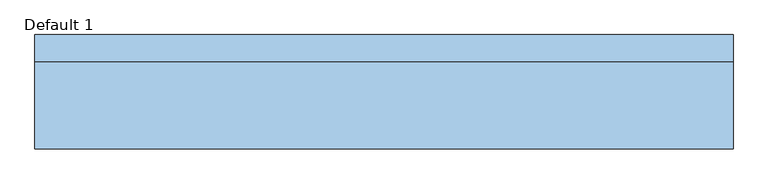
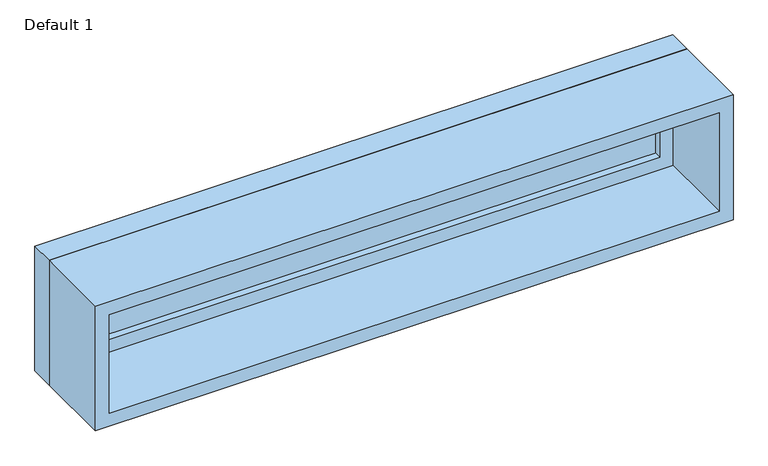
"""IFC4 building model written with IfcOpenShell, lengths in millimetres: window geometry, Planitar-Fixed : Default 1."""

from ifc_helpers import new_model, si_unit, frame, origin, place, context, project, spatial, polyline, outline, extrude, source, transform, mapped, element, save


def default_1_ff7a0cfc(model_context):
    return source(origin(), model_context, "Body", "SweptSolid", [
        extrude(outline(polyline([(1200.2, -717.6), (933.4, -717.6), (933.4, 717.6), (1200.2, 717.6), (1200.2, -717.6)]), holes=[polyline([(1156.2, -673.6), (1156.2, 673.6), (977.4, 673.6), (977.4, -673.6), (1156.2, -673.6)])]), frame((0.0, 76.95, 0.0), z_axis=(0.0, 1.0, 0.0), x_axis=(0.0, 0.0, 1.0)), (0.0, 0.0, 1.0), 44.0),
        extrude(outline(polyline([(1219.2, -736.6), (914.4, -736.6), (914.4, 736.6), (1219.2, 736.6), (1219.2, -736.6)]), holes=[polyline([(1200.2, -717.6), (1200.2, 717.6), (933.4, 717.6), (933.4, -717.6), (1200.2, -717.6)])]), frame((0.0, 76.95, 0.0), z_axis=(0.0, 1.0, 0.0), x_axis=(0.0, 0.0, 1.0)), (0.0, 0.0, 1.0), 56.7),
        extrude(outline(polyline([(1219.2, -736.6), (914.4, -736.6), (914.4, 736.6), (1219.2, 736.6), (1219.2, -736.6)]), holes=[polyline([(1187.2, -704.6), (1187.2, 704.6), (946.4, 704.6), (946.4, -704.6), (1187.2, -704.6)])]), frame((0.0, -107.65, 0.0), z_axis=(0.0, 1.0, 0.0), x_axis=(0.0, 0.0, 1.0)), (0.0, 0.0, 1.0), 184.6),
        extrude(outline(polyline([(-673.6, 104.95), (673.6, 104.95), (673.6, 92.95), (-673.6, 92.95), (-673.6, 104.95)])), frame((0.0, 0.0, 977.4), z_axis=(0.0, 0.0, 1.0), x_axis=(1.0, 0.0, 0.0)), (0.0, 0.0, 1.0), 178.8),
    ])


if __name__ == "__main__":
    model = new_model("IFC4")
    model_context = context("Model", 3, world=origin())
    ifc_project = project(units=[si_unit("LENGTHUNIT", "METRE", prefix="MILLI")], contexts=[model_context])
    site = spatial("IfcSite", under=ifc_project)
    building = spatial("IfcBuilding", under=site)
    placement = place(None, origin())
    default_1_shape = default_1_ff7a0cfc(model_context)
    element("IfcWindow", 1, ObjectType="Planitar-Fixed : Default 1", at=placement, inside=building, context=model_context, shape_type="MappedRepresentation", body=[
        mapped(default_1_shape, transform((0.0, 0.0, 0.0), x_axis=(1.0, 0.0, 0.0), y_axis=(0.0, 1.0, 0.0), z_axis=(0.0, 0.0, 1.0))),
    ])
    save(model, "model.ifc")
